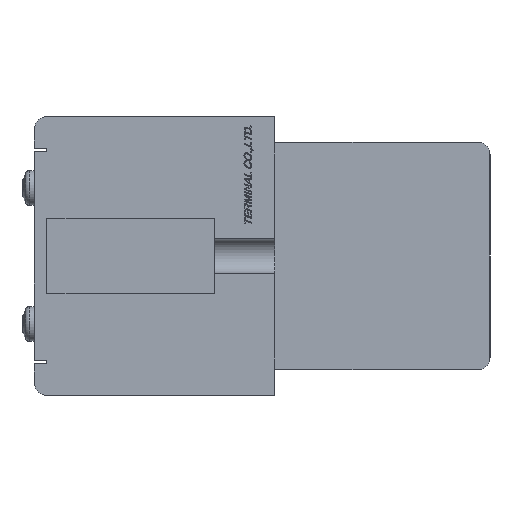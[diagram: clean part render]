
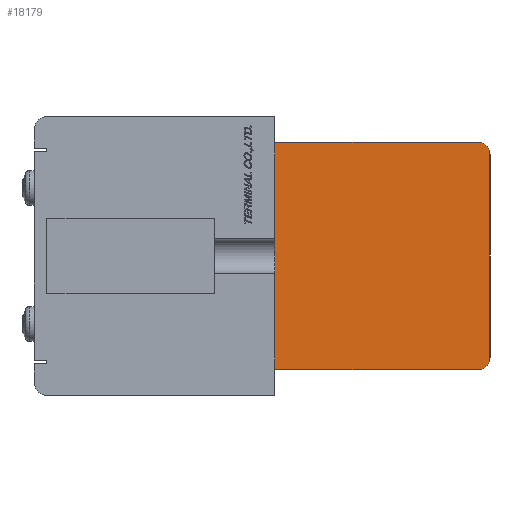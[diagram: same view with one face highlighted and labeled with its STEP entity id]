
A CAD part, left-side view. The second image highlights one B-rep face of the part: STEP entity #18179.
In plain terms, the highlighted planar face has unit normal (-1, 0, 0).
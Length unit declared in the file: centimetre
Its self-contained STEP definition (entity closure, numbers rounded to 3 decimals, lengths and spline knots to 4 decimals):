
#969=CIRCLE('',#19443,0.2);
#970=CIRCLE('',#19446,0.2);
#2665=VERTEX_POINT('',#28736);
#2666=VERTEX_POINT('',#28738);
#2673=VERTEX_POINT('',#28770);
#2674=VERTEX_POINT('',#28774);
#2675=VERTEX_POINT('',#28778);
#2676=VERTEX_POINT('',#28782);
#4491=VECTOR('',#22898,1.);
#4504=VECTOR('',#22926,1.);
#4507=VECTOR('',#22934,1.);
#4510=VECTOR('',#22942,1.);
#6291=LINE('',#28739,#4491);
#6304=LINE('',#28769,#4504);
#6307=LINE('',#28777,#4507);
#6310=LINE('',#28785,#4510);
#8944=EDGE_CURVE('',#2666,#2665,#6291,.T.);
#8959=EDGE_CURVE('',#2665,#2673,#6304,.T.);
#8961=EDGE_CURVE('',#2673,#2674,#969,.T.);
#8963=EDGE_CURVE('',#2674,#2675,#6307,.T.);
#8965=EDGE_CURVE('',#2675,#2676,#970,.T.);
#8967=EDGE_CURVE('',#2676,#2666,#6310,.T.);
#14240=ORIENTED_EDGE('',*,*,#8944,.F.);
#14241=ORIENTED_EDGE('',*,*,#8967,.F.);
#14242=ORIENTED_EDGE('',*,*,#8965,.F.);
#14243=ORIENTED_EDGE('',*,*,#8963,.F.);
#14244=ORIENTED_EDGE('',*,*,#8961,.F.);
#14245=ORIENTED_EDGE('',*,*,#8959,.F.);
#15919=EDGE_LOOP('',(#14240,#14241,#14242,#14243,#14244,#14245));
#17106=FACE_BOUND('',#15919,.T.);
#18179=ADVANCED_FACE('',(#17106),#29985,.F.);
#19443=AXIS2_PLACEMENT_3D('',#28773,#22930,#22931);
#19446=AXIS2_PLACEMENT_3D('',#28781,#22938,#22939);
#19448=AXIS2_PLACEMENT_3D('',#28786,#22943,$);
#22898=DIRECTION('',(0.,0.,1.));
#22926=DIRECTION('',(0.,-1.,0.));
#22930=DIRECTION('',(1.,0.,0.));
#22931=DIRECTION('',(0.,0.,-0.2));
#22934=DIRECTION('',(0.,0.,-1.));
#22938=DIRECTION('',(1.,0.,0.));
#22939=DIRECTION('',(0.,0.,-0.2));
#22942=DIRECTION('',(0.,1.,0.));
#22943=DIRECTION('',(1.,0.,0.));
#28736=CARTESIAN_POINT('',(-0.4,0.,1.8));
#28738=CARTESIAN_POINT('',(-0.4,0.,-1.8));
#28739=CARTESIAN_POINT('',(-0.4,0.,1.8));
#28769=CARTESIAN_POINT('',(-0.4,-3.2,1.8));
#28770=CARTESIAN_POINT('',(-0.4,-3.2,1.8));
#28773=CARTESIAN_POINT('',(-0.4,-3.2,1.6));
#28774=CARTESIAN_POINT('',(-0.4,-3.4,1.6));
#28777=CARTESIAN_POINT('',(-0.4,-3.4,-1.6));
#28778=CARTESIAN_POINT('',(-0.4,-3.4,-1.6));
#28781=CARTESIAN_POINT('',(-0.4,-3.2,-1.6));
#28782=CARTESIAN_POINT('',(-0.4,-3.2,-1.8));
#28785=CARTESIAN_POINT('',(-0.4,0.,-1.8));
#28786=CARTESIAN_POINT('',(-0.4,-1.6784,0.));
#29985=PLANE('',#19448);
